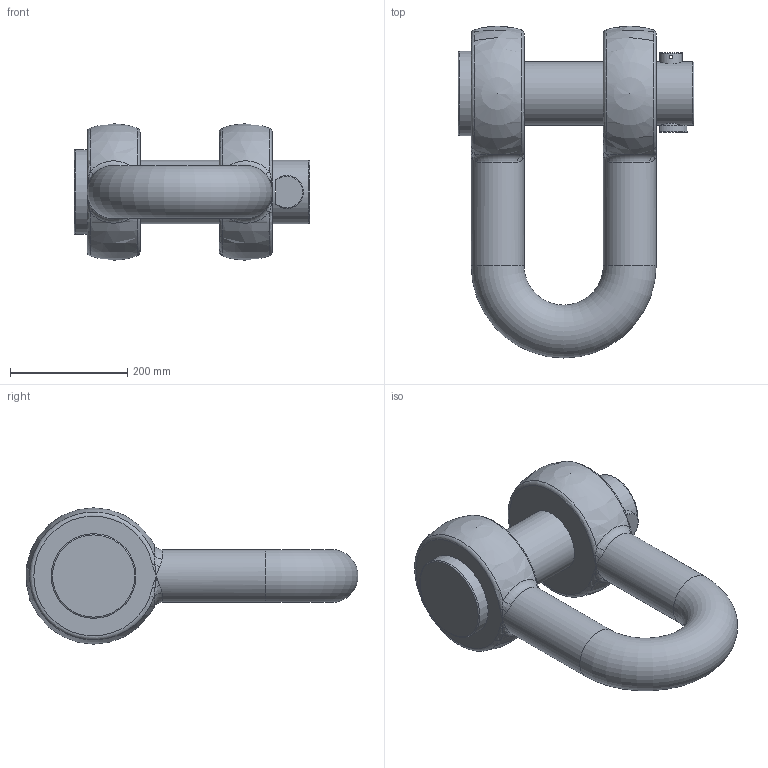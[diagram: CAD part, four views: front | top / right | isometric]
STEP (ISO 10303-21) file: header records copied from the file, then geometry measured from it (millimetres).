
FILE_DESCRIPTION(/* description */ (''),/* implementation_level */ '2;1');
FILE_NAME(/* name */ 'C:\Users\D\Documents\Inventor\HP\吊具\シャックル\SA_2\sa_90.stp',/* time_stamp */ '2024-11-14T11:42:18+09:00',/* author */ ('D'),/* organization */ (''),/* preprocessor_version */ 'ST-DEVELOPER v18',/* originating_system */ 'Autodesk Inventor 2020',/* authorisation */ '');
FILE_SCHEMA (('AUTOMOTIVE_DESIGN { 1 0 10303 214 3 1 1 }'));
Length unit declared in the file: millimetre
Products named in the file (4): sa_90; sb_6; ba-sa_pin1_34; ba-sa_pin2_34
Assembly tree (3 placements, depth 2):
  sa_90
    sb_6
    ba-sa_pin1_34
    ba-sa_pin2_34
Bounding box: 401 x 565.15 x 232 mm (x, y, z)
Volume: 13930967.1 mm3; surface area: 689260.8 mm2
Topology: 3 solids, 3 shells, 60 faces, 170 edges, 96 vertices
Faces by surface type: bspline 24, torus 13, plane 11, cylinder 10, sphere 2
Full cylindrical faces by diameter (mm): 6 x1, 38 x1, 39 x1, 90 x2, 108 x1, 110 x2, 144 x1
Entity records: 3022 total; most frequent: CARTESIAN_POINT 1522, ORIENTED_EDGE 300, DIRECTION 273, EDGE_CURVE 150, AXIS2_PLACEMENT_3D 129, VERTEX_POINT 96, CIRCLE 86, EDGE_LOOP 68
